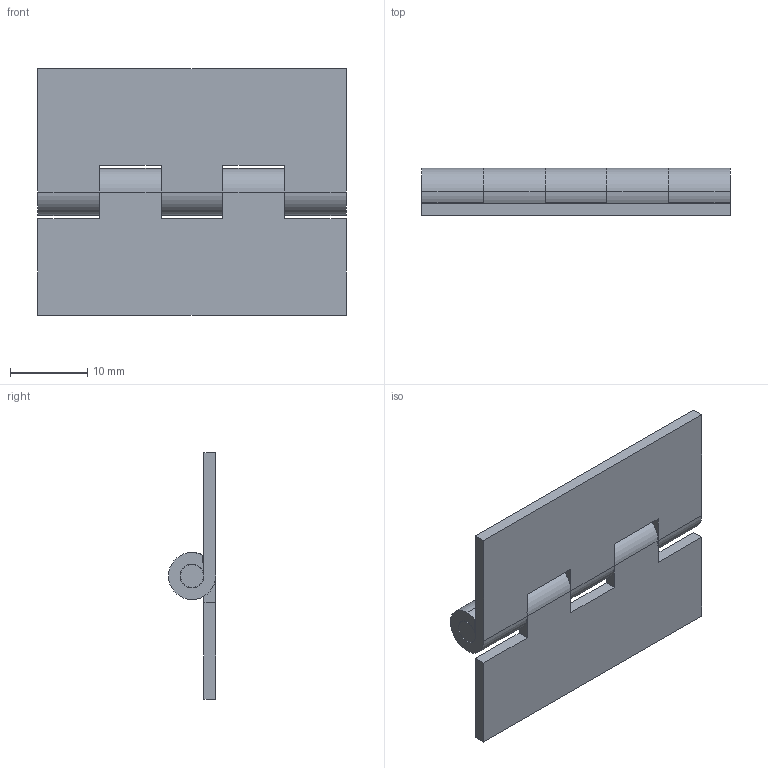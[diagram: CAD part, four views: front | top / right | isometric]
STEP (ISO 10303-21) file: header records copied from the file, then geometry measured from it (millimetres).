
FILE_DESCRIPTION (( 'STEP AP203' ), '1' );
FILE_NAME ('B17-17781.STEP', '2024-10-24T09:35:05', ( '' ), ( '' ), 'SwSTEP 2.0', 'SolidWorks 2021', '' );
FILE_SCHEMA (( 'CONFIG_CONTROL_DESIGN' ));
Length unit declared in the file: millimetre
Products named in the file (4): B17-3-40; B17-17781; B17-207801-2; B17-207801-1
Assembly tree (3 placements, depth 2):
  B17-17781
    B17-207801-1
    B17-207801-2
    B17-3-40
Bounding box: 40 x 6.1 x 32 mm (x, y, z)
Volume: 2740.3 mm3; surface area: 4257 mm2
Topology: 3 solids, 3 shells, 62 faces, 168 edges, 112 vertices
Faces by surface type: cylinder 32, plane 30
Entity records: 2390 total; most frequent: DIRECTION 368, CARTESIAN_POINT 348, ORIENTED_EDGE 336, EDGE_CURVE 168, AXIS2_PLACEMENT_3D 132, VERTEX_POINT 112, LINE 104, VECTOR 104
